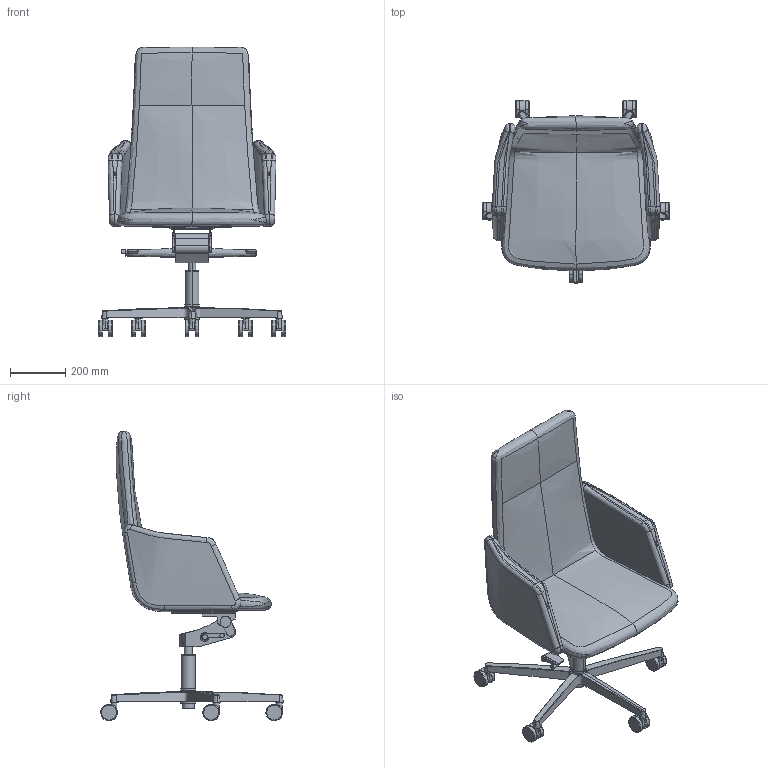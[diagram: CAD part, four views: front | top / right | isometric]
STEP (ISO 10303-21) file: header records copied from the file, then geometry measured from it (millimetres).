
FILE_DESCRIPTION(/* description */ (''),/* implementation_level */ '2;1');
FILE_NAME(/* name */ 'HARMON~4',/* time_stamp */ '2016-07-26T15:18:19+02:00',/* author */ (''),/* organization */ (''),/* preprocessor_version */ 'ST-DEVELOPER v15',/* originating_system */ '',/* authorisation */ '');
FILE_SCHEMA (('CONFIG_CONTROL_DESIGN'));
Length unit declared in the file: millimetre
Products named in the file (1): Document
Bounding box: 677.7 x 659.54 x 1046.92 mm (x, y, z)
Volume: 2104050.3 mm3; surface area: 2090836.7 mm2
Topology: 12 solids, 43 shells, 325 faces, 758 edges, 489 vertices
Faces by surface type: bspline 257, plane 68
Entity records: 25403 total; most frequent: CARTESIAN_POINT 20986, ORIENTED_EDGE 1387, EDGE_CURVE 755, VERTEX_POINT 483, EDGE_LOOP 329, ADVANCED_FACE 325, FACE_OUTER_BOUND 325, B_SPLINE_CURVE_WITH_KNOTS 317
